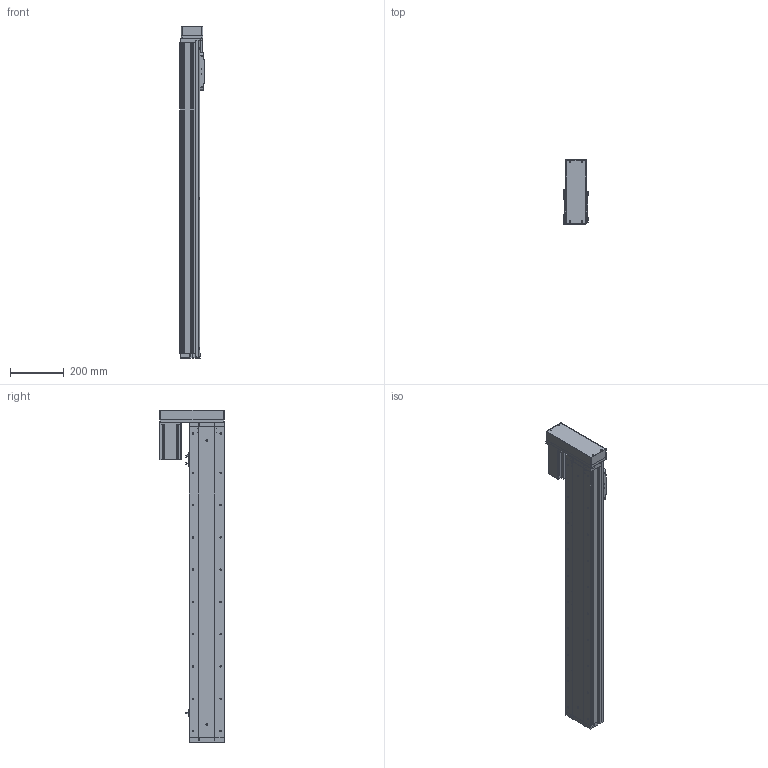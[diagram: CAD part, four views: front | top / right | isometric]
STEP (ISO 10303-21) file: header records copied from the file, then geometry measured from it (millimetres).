
FILE_DESCRIPTION (( 'STEP AP214' ), '1' );
FILE_NAME ('KSD130S-P2010-ML-CR-S950.STEP', '2019-09-24T06:32:19', ( '微软用户' ), ( '微软中国' ), 'SwSTEP 2.0', 'SolidWorks 2014', '' );
FILE_SCHEMA (( 'AUTOMOTIVE_DESIGN' ));
Length unit declared in the file: millimetre
Products named in the file (14): 130遵裔啣揤啣1; 130宽盖板全封闭-950行程; 130宽滚珠螺姆安装板1防护罩; 130宽滚珠螺姆安装板1; 130宽侧板全封闭-950行程; 130宽全封闭马达安装板丝杠; 130宽全封闭端盖丝杠; 130宽底板全封闭丝杠-950行程; KSD130S-P2010-ML-CR-S950; 130宽模组保护罩左右折; 台达ECMA－C20807AS伺服电机; 130宽模组马达安装板连板左右折丝杆; 感应片130宽全封闭; U倰嫖萇EEㄜSX672
Assembly tree (17 placements, depth 2):
  KSD130S-P2010-ML-CR-S950
    130宽底板全封闭丝杠-950行程
    130宽全封闭端盖丝杠
    130宽全封闭马达安装板丝杠
    130宽侧板全封闭-950行程  x2
    130宽滚珠螺姆安装板1
    130宽滚珠螺姆安装板1防护罩
    130宽盖板全封闭-950行程
    130遵裔啣揤啣1  x2
    U倰嫖萇EEㄜSX672  x3
    感应片130宽全封闭
    130宽模组马达安装板连板左右折丝杆
    台达ECMA－C20807AS伺服电机
    130宽模组保护罩左右折
Bounding box: 90 x 240 x 1234.5 mm (x, y, z)
Volume: 4429621.1 mm3; surface area: 1433610.3 mm2
Topology: 18 solids, 18 shells, 1542 faces, 4188 edges, 2619 vertices
Faces by surface type: cylinder 688, plane 611, cone 243
Entity records: 47070 total; most frequent: DIRECTION 7175, CARTESIAN_POINT 7015, ORIENTED_EDGE 6598, EDGE_CURVE 3299, AXIS2_PLACEMENT_3D 2595, VERTEX_POINT 2149, LINE 1985, VECTOR 1985
